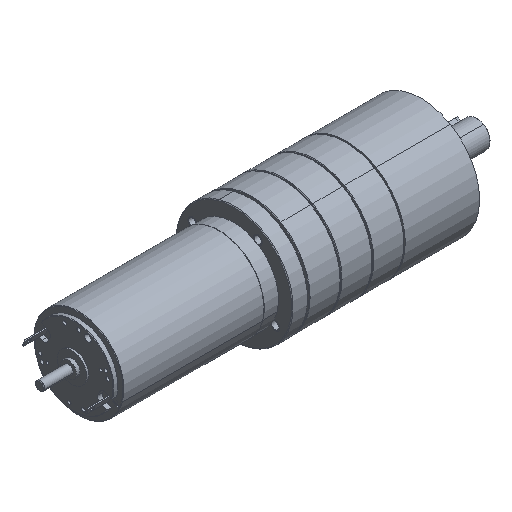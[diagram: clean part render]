
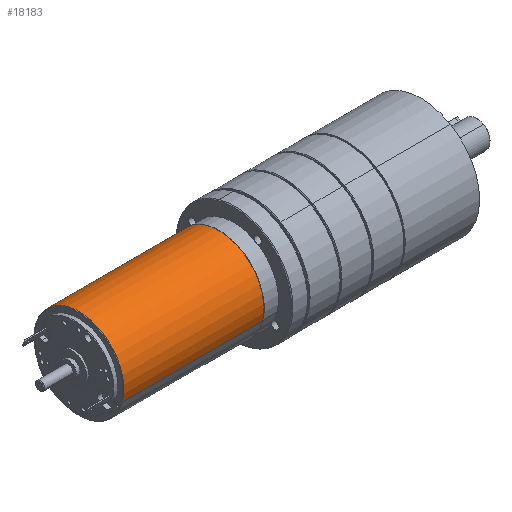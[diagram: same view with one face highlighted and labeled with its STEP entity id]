
A CAD part, isometric view. The second image highlights one B-rep face of the part: STEP entity #18183.
In plain terms, the highlighted cylindrical face has radius 20 mm (diameter 40 mm), a partial arc.
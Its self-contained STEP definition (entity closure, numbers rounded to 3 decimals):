
#96 = CYLINDRICAL_SURFACE ( 'NONE', #6244, 20. ) ;
#681 = LINE ( 'NONE', #6471, #19909 ) ;
#1196 = ORIENTED_EDGE ( 'NONE', *, *, #3288, .F. ) ;
#1963 = CARTESIAN_POINT ( 'NONE',  ( 0., 0., -20. ) ) ;
#3288 = EDGE_CURVE ( 'NONE', #23741, #20615, #23565, .T. ) ;
#3917 = EDGE_CURVE ( 'NONE', #20615, #15355, #15234, .T. ) ;
#4888 = EDGE_LOOP ( 'NONE', ( #1196, #9286, #6891, #10485 ) ) ;
#6244 = AXIS2_PLACEMENT_3D ( 'NONE', #15282, #20946, #13411 ) ;
#6456 = CARTESIAN_POINT ( 'NONE',  ( 89.1, 0., 0. ) ) ;
#6471 = CARTESIAN_POINT ( 'NONE',  ( 0., 0., 20. ) ) ;
#6648 = AXIS2_PLACEMENT_3D ( 'NONE', #6456, #19931, #8348 ) ;
#6891 = ORIENTED_EDGE ( 'NONE', *, *, #11881, .T. ) ;
#8348 = DIRECTION ( 'NONE',  ( 0., 0., 1. ) ) ;
#9286 = ORIENTED_EDGE ( 'NONE', *, *, #21336, .T. ) ;
#10294 = DIRECTION ( 'NONE',  ( -1., 0., 0. ) ) ;
#10338 = VERTEX_POINT ( 'NONE', #10548 ) ;
#10485 = ORIENTED_EDGE ( 'NONE', *, *, #3917, .F. ) ;
#10548 = CARTESIAN_POINT ( 'NONE',  ( 89.1, 0., 20. ) ) ;
#11881 = EDGE_CURVE ( 'NONE', #10338, #15355, #681, .T. ) ;
#12126 = CARTESIAN_POINT ( 'NONE',  ( 26.8, 0., -20. ) ) ;
#13411 = DIRECTION ( 'NONE',  ( 0., 0., 1. ) ) ;
#13454 = VECTOR ( 'NONE', #10294, 1000. ) ;
#15234 = CIRCLE ( 'NONE', #23682, 20. ) ;
#15282 = CARTESIAN_POINT ( 'NONE',  ( 0., 0., 0. ) ) ;
#15355 = VERTEX_POINT ( 'NONE', #18059 ) ;
#16120 = DIRECTION ( 'NONE',  ( -1., 0., 0. ) ) ;
#17231 = FACE_OUTER_BOUND ( 'NONE', #4888, .T. ) ;
#18059 = CARTESIAN_POINT ( 'NONE',  ( 26.8, 0., 20. ) ) ;
#18183 = ADVANCED_FACE ( 'NONE', ( #17231 ), #96, .T. ) ;
#19738 = CIRCLE ( 'NONE', #6648, 20. ) ;
#19909 = VECTOR ( 'NONE', #16120, 1000. ) ;
#19931 = DIRECTION ( 'NONE',  ( -1., 0., 0. ) ) ;
#20501 = CARTESIAN_POINT ( 'NONE',  ( 89.1, 0., -20. ) ) ;
#20615 = VERTEX_POINT ( 'NONE', #12126 ) ;
#20946 = DIRECTION ( 'NONE',  ( -1., 0., 0. ) ) ;
#21336 = EDGE_CURVE ( 'NONE', #23741, #10338, #19738, .T. ) ;
#23565 = LINE ( 'NONE', #1963, #13454 ) ;
#23682 = AXIS2_PLACEMENT_3D ( 'NONE', #24593, #24429, #24264 ) ;
#23741 = VERTEX_POINT ( 'NONE', #20501 ) ;
#24264 = DIRECTION ( 'NONE',  ( 0., 0., 1. ) ) ;
#24429 = DIRECTION ( 'NONE',  ( -1., 0., 0. ) ) ;
#24593 = CARTESIAN_POINT ( 'NONE',  ( 26.8, 0., 0. ) ) ;
